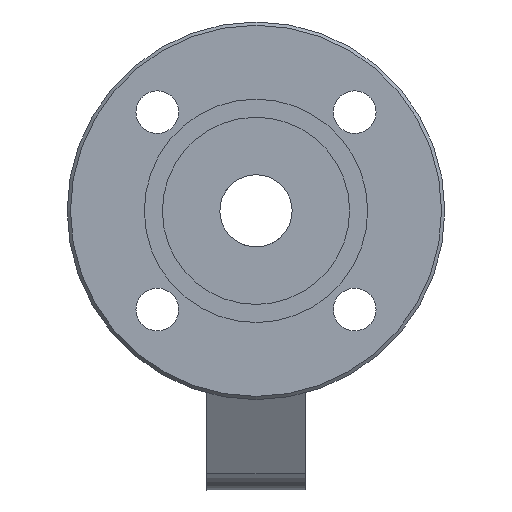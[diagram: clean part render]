
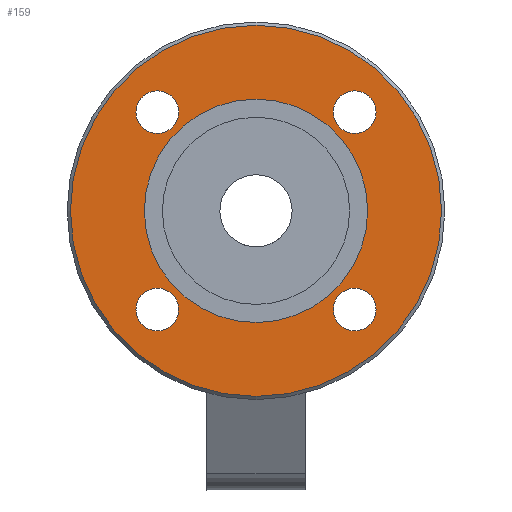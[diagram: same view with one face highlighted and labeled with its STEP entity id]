
A CAD part, left-side view. The second image highlights one B-rep face of the part: STEP entity #159.
In plain terms, the highlighted planar face has unit normal (-1, 0, 0).
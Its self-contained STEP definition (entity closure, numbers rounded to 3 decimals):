
#159=ADVANCED_FACE('',(#1310,#1312,#1314,#1316,#1318,#1320),#1322,.T.);
#1310=FACE_BOUND('',#1311,.T.);
#1311=EDGE_LOOP('',(#2240));
#1312=FACE_BOUND('',#1313,.T.);
#1313=EDGE_LOOP('',(#2241));
#1314=FACE_BOUND('',#1315,.T.);
#1315=EDGE_LOOP('',(#2242));
#1316=FACE_BOUND('',#1317,.T.);
#1317=EDGE_LOOP('',(#2243));
#1318=FACE_BOUND('',#1319,.T.);
#1319=EDGE_LOOP('',(#2244));
#1320=FACE_OUTER_BOUND('',#1321,.T.);
#1321=EDGE_LOOP('',(#2245));
#1322=PLANE('',#1323);
#1323=AXIS2_PLACEMENT_3D('',#1324,#1325,#1326);
#1324=CARTESIAN_POINT('',(-56.,0.,0.));
#1325=DIRECTION('',(-1.,0.,0.));
#1326=DIRECTION('',(0.,1.,0.));
#2240=ORIENTED_EDGE('',*,*,#3123,.T.);
#2241=ORIENTED_EDGE('',*,*,#3124,.T.);
#2242=ORIENTED_EDGE('',*,*,#3125,.T.);
#2243=ORIENTED_EDGE('',*,*,#3126,.T.);
#2244=ORIENTED_EDGE('',*,*,#3107,.F.);
#2245=ORIENTED_EDGE('',*,*,#3127,.F.);
#3107=EDGE_CURVE('',#3470,#3470,#3472,.F.);
#3123=EDGE_CURVE('',#3502,#3502,#3503,.F.);
#3124=EDGE_CURVE('',#3504,#3504,#3505,.F.);
#3125=EDGE_CURVE('',#3506,#3506,#3507,.F.);
#3126=EDGE_CURVE('',#3508,#3508,#3509,.F.);
#3127=EDGE_CURVE('',#3510,#3510,#3511,.T.);
#3470=VERTEX_POINT('',#4764);
#3472=CIRCLE('',#4768,34.);
#3502=VERTEX_POINT('',#4838);
#3503=CIRCLE('',#4839,6.5);
#3504=VERTEX_POINT('',#4843);
#3505=CIRCLE('',#4844,6.5);
#3506=VERTEX_POINT('',#4848);
#3507=CIRCLE('',#4849,6.5);
#3508=VERTEX_POINT('',#4853);
#3509=CIRCLE('',#4854,6.5);
#3510=VERTEX_POINT('',#4858);
#3511=CIRCLE('',#4859,56.5);
#4764=CARTESIAN_POINT('',(-56.,33.999,-0.312));
#4768=AXIS2_PLACEMENT_3D('',#4769,#4770,#4771);
#4769=CARTESIAN_POINT('',(-56.,0.,0.));
#4770=DIRECTION('',(1.,0.,0.));
#4771=DIRECTION('',(0.,1.,-0.009));
#4838=CARTESIAN_POINT('',(-56.,-30.052,-36.552));
#4839=AXIS2_PLACEMENT_3D('',#4840,#4841,#4842);
#4840=CARTESIAN_POINT('',(-56.,-30.052,-30.052));
#4841=DIRECTION('',(-1.,0.,0.));
#4842=DIRECTION('',(0.,0.,-1.));
#4843=CARTESIAN_POINT('',(-56.,-36.552,30.052));
#4844=AXIS2_PLACEMENT_3D('',#4845,#4846,#4847);
#4845=CARTESIAN_POINT('',(-56.,-30.052,30.052));
#4846=DIRECTION('',(-1.,0.,0.));
#4847=DIRECTION('',(0.,-1.,0.));
#4848=CARTESIAN_POINT('',(-56.,30.052,36.552));
#4849=AXIS2_PLACEMENT_3D('',#4850,#4851,#4852);
#4850=CARTESIAN_POINT('',(-56.,30.052,30.052));
#4851=DIRECTION('',(-1.,0.,0.));
#4852=DIRECTION('',(0.,0.,1.));
#4853=CARTESIAN_POINT('',(-56.,36.552,-30.052));
#4854=AXIS2_PLACEMENT_3D('',#4855,#4856,#4857);
#4855=CARTESIAN_POINT('',(-56.,30.052,-30.052));
#4856=DIRECTION('',(-1.,0.,0.));
#4857=DIRECTION('',(0.,1.,0.));
#4858=CARTESIAN_POINT('',(-56.,56.5,0.));
#4859=AXIS2_PLACEMENT_3D('',#4860,#4861,#4862);
#4860=CARTESIAN_POINT('',(-56.,0.,0.));
#4861=DIRECTION('',(1.,0.,0.));
#4862=DIRECTION('',(0.,1.,0.));
